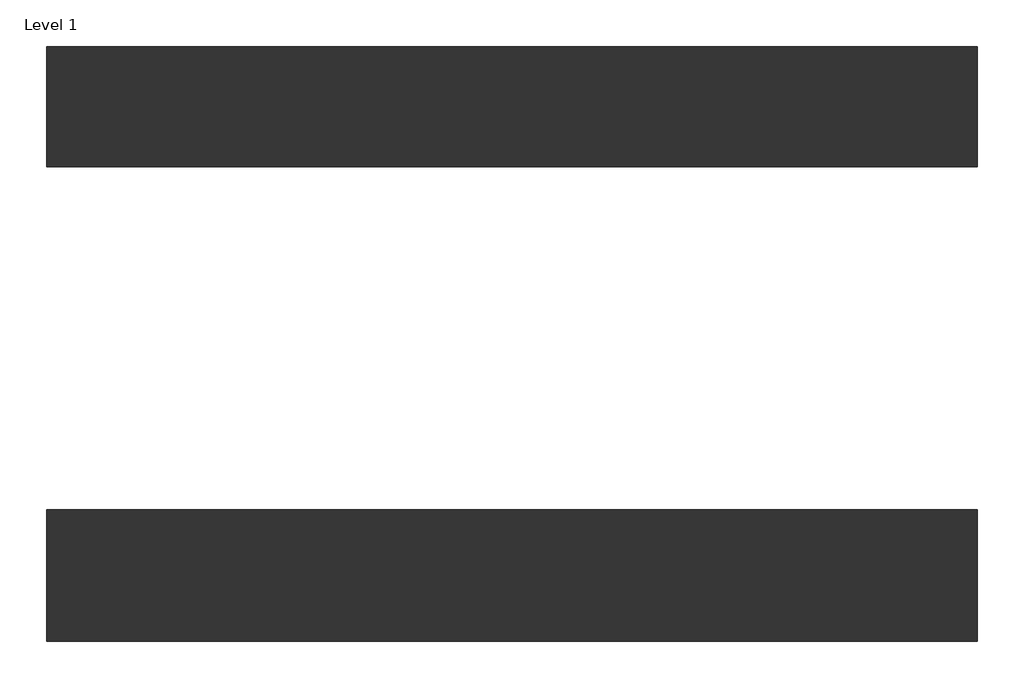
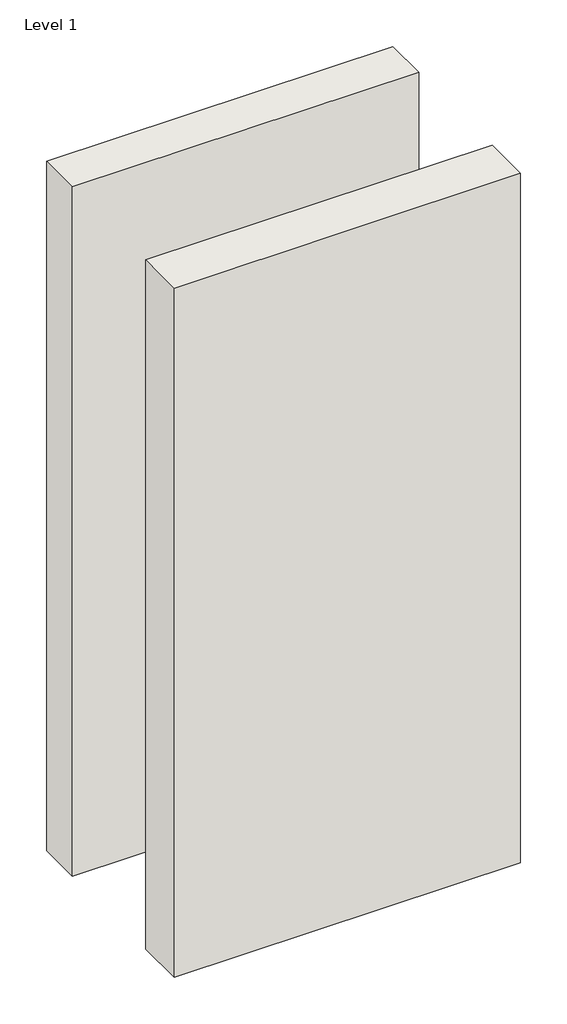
# One storey: 2 walls.
"""IFC4 building model written with IfcOpenShell, lengths in millimetres."""

from ifc_helpers import new_model, si_unit, origin, origin_with_axes, place, context, project, spatial, polyline, outline, extrude, element, save

model = new_model("IFC4")

# Units and contexts
model_context = context("Model", 3, world=origin())
ifc_project = project(units=[si_unit("LENGTHUNIT", "METRE", prefix="MILLI")], contexts=[model_context])

# Site, building, storey
site = spatial("IfcSite", under=ifc_project)
building = spatial("IfcBuilding", under=site)
storey = spatial("IfcBuildingStorey", under=building, Name="Level 1", Elevation=0.0)

# Walls
placement = place(None, origin())
element("IfcWall", 1, ObjectType="Interior-Steel Frame-StrataWall-CSR1480-245mm", at=placement, inside=storey, context=model_context, shape_type="SweptSolid", body=[
    extrude(outline(polyline([(-2696.7740168, -1355.7501588), (-796.7740168, -1355.7501588), (-796.7740168, -1600.7501588), (-2696.7740168, -1600.7501588), (-2696.7740168, -1355.7501588)])), origin_with_axes(), (0.0, 0.0, 1.0), 4000.0),
])
element("IfcWall", 2, ObjectType="Interior-Steel Frame-StrataWall-CSR1480-269mm", at=placement, inside=storey, context=model_context, shape_type="SweptSolid", body=[
    extrude(outline(polyline([(-2696.7740168, -2300.7501588), (-796.7740168, -2300.7501588), (-796.7740168, -2569.7501588), (-2696.7740168, -2569.7501588), (-2696.7740168, -2300.7501588)])), origin_with_axes(), (0.0, 0.0, 1.0), 4000.0),
])

save(model, "model.ifc")
